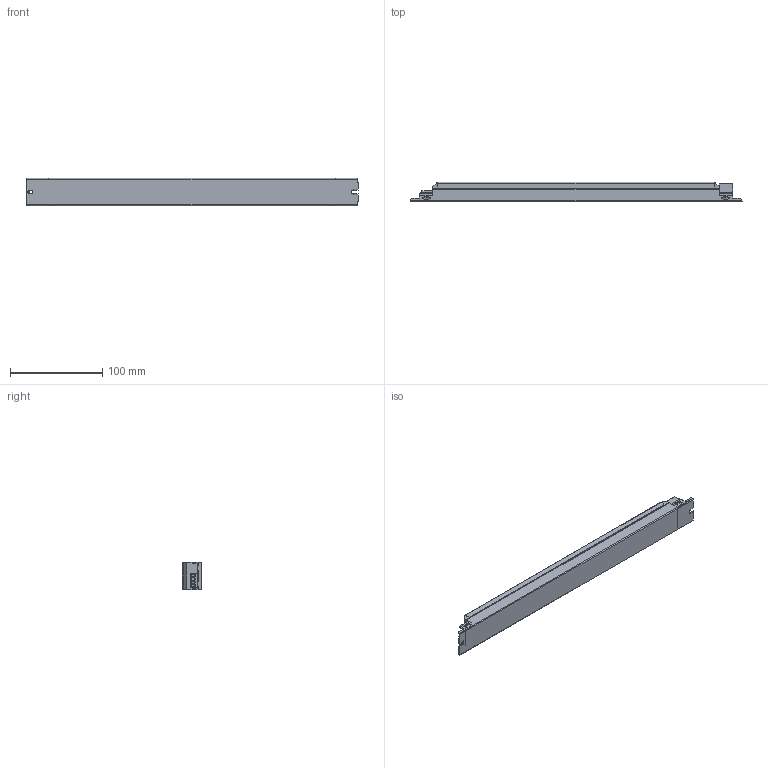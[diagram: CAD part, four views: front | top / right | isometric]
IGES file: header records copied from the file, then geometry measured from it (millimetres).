
Start section: SolidWorks IGES file using analytic representation for surfaces
Global section: file name: D:\ECTR_TEMP\OLQ-batchEngine\queue\temp\4162912swm000.igs; native system: SolidWorks 2017; preprocessor: SolidWorks 2017; author: SYSTEM; date: 191118.123437; units: millimetre
Bounding box: 359 x 21 x 30 mm (x, y, z)
Surface area: 41924.7 mm2 (no closed solid volume)
Topology: 0 solids, 0 shells, 633 faces, 5638 edges, 5638 vertices
Faces by surface type: bspline 430, revolution 203
